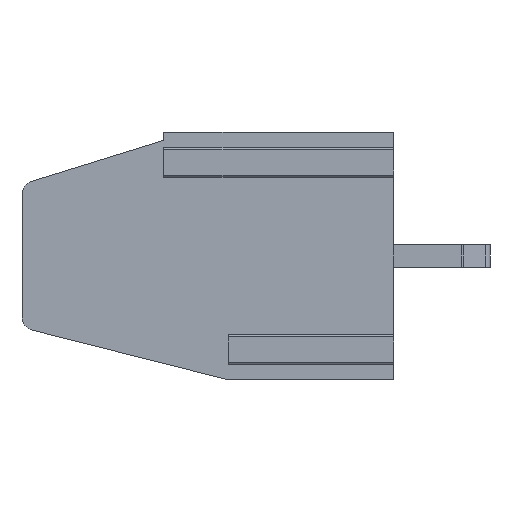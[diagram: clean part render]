
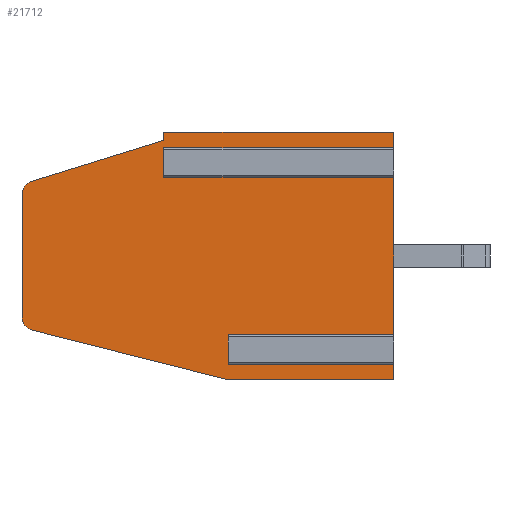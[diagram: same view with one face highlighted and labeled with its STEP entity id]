
A CAD part, left-side view. The second image highlights one B-rep face of the part: STEP entity #21712.
In plain terms, the highlighted planar face has unit normal (-1, 0, 0).
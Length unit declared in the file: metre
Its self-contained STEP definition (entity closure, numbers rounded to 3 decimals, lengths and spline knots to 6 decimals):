
#1=DIRECTION('',(0.,-0.969,-0.246));
#2=VECTOR('',#1,0.007348);
#3=CARTESIAN_POINT('',(-0.0032,0.013123,-0.007196));
#4=LINE('',#3,#2);
#5=CARTESIAN_POINT('',(-0.0032,0.013,-0.006711));
#6=DIRECTION('',(-1.,0.,0.));
#7=DIRECTION('',(0.,1.,0.));
#8=AXIS2_PLACEMENT_3D('',#5,#6,#7);
#10=CARTESIAN_POINT('',(-0.0032,0.013,-0.002268));
#11=DIRECTION('',(-1.,0.,0.));
#12=DIRECTION('',(0.,0.297,0.955));
#13=AXIS2_PLACEMENT_3D('',#10,#11,#12);
#15=DIRECTION('',(0.,0.955,-0.297));
#16=VECTOR('',#15,0.005025);
#17=CARTESIAN_POINT('',(-0.0032,0.00835,-0.0003));
#18=LINE('',#17,#16);
#19=DIRECTION('',(0.,1.,0.));
#20=VECTOR('',#19,0.006);
#21=CARTESIAN_POINT('',(-0.0032,0.,-0.007532));
#22=LINE('',#21,#20);
#32=DIRECTION('',(0.,0.,-1.));
#33=VECTOR('',#32,0.000735);
#34=CARTESIAN_POINT('',(-0.0032,0.006,-0.007532));
#35=LINE('',#34,#33);
#59=DIRECTION('',(0.,-1.,0.));
#60=VECTOR('',#59,0.006);
#61=CARTESIAN_POINT('',(-0.0032,0.006,-0.008268));
#62=LINE('',#61,#60);
#67=DIRECTION('',(0.,0.,-1.));
#68=VECTOR('',#67,0.000732);
#69=CARTESIAN_POINT('',(-0.0032,0.,-0.008268));
#70=LINE('',#69,#68);
#99=DIRECTION('',(0.,0.,-1.));
#100=VECTOR('',#99,0.006065);
#101=CARTESIAN_POINT('',(-0.0032,0.,-0.001468));
#102=LINE('',#101,#100);
#131=DIRECTION('',(0.,0.,-1.));
#132=VECTOR('',#131,0.000732);
#133=CARTESIAN_POINT('',(-0.0032,0.,0.));
#134=LINE('',#133,#132);
#3116=DIRECTION('',(0.,0.,1.));
#3117=VECTOR('',#3116,0.004443);
#3118=CARTESIAN_POINT('',(-0.0032,0.0135,-0.006711));
#3119=LINE('',#3118,#3117);
#4764=DIRECTION('',(0.,1.,0.));
#4765=VECTOR('',#4764,0.006);
#4766=CARTESIAN_POINT('',(-0.0032,0.,-0.009));
#4767=LINE('',#4766,#4765);
#5834=DIRECTION('',(0.,-1.,0.));
#5835=VECTOR('',#5834,0.00835);
#5836=CARTESIAN_POINT('',(-0.0032,0.00835,0.));
#5837=LINE('',#5836,#5835);
#11060=DIRECTION('',(0.,0.,1.));
#11061=VECTOR('',#11060,0.0003);
#11062=CARTESIAN_POINT('',(-0.0032,0.00835,-0.0003));
#11063=LINE('',#11062,#11061);
#18841=DIRECTION('',(0.,-1.,0.));
#18842=VECTOR('',#18841,0.00835);
#18843=CARTESIAN_POINT('',(-0.0032,0.00835,-0.001468));
#18844=LINE('',#18843,#18842);
#18854=DIRECTION('',(0.,0.,-1.));
#18855=VECTOR('',#18854,0.000735);
#18856=CARTESIAN_POINT('',(-0.0032,0.00835,-0.000732));
#18857=LINE('',#18856,#18855);
#18881=DIRECTION('',(0.,1.,0.));
#18882=VECTOR('',#18881,0.00835);
#18883=CARTESIAN_POINT('',(-0.0032,0.,-0.000732));
#18884=LINE('',#18883,#18882);
#18913=CARTESIAN_POINT('',(-0.0032,0.006,-0.007532));
#18914=CARTESIAN_POINT('',(-0.0032,0.006,-0.008268));
#18915=VERTEX_POINT('',#18913);
#18916=VERTEX_POINT('',#18914);
#18917=CARTESIAN_POINT('',(-0.0032,0.,-0.008268));
#18918=VERTEX_POINT('',#18917);
#18919=CARTESIAN_POINT('',(-0.0032,0.,-0.009));
#18920=VERTEX_POINT('',#18919);
#18921=CARTESIAN_POINT('',(-0.0032,0.006,-0.009));
#18922=VERTEX_POINT('',#18921);
#18923=CARTESIAN_POINT('',(-0.0032,0.013123,-0.007196));
#18924=VERTEX_POINT('',#18923);
#18925=CARTESIAN_POINT('',(-0.0032,0.0135,-0.006711));
#18926=VERTEX_POINT('',#18925);
#18927=CARTESIAN_POINT('',(-0.0032,0.0135,-0.002268));
#18928=VERTEX_POINT('',#18927);
#18929=CARTESIAN_POINT('',(-0.0032,0.013148,-0.001791));
#18930=VERTEX_POINT('',#18929);
#18931=CARTESIAN_POINT('',(-0.0032,0.00835,-0.0003));
#18932=VERTEX_POINT('',#18931);
#18933=CARTESIAN_POINT('',(-0.0032,0.00835,0.));
#18934=VERTEX_POINT('',#18933);
#18935=CARTESIAN_POINT('',(-0.0032,0.,0.));
#18936=VERTEX_POINT('',#18935);
#18937=CARTESIAN_POINT('',(-0.0032,0.,-0.000732));
#18938=VERTEX_POINT('',#18937);
#18939=CARTESIAN_POINT('',(-0.0032,0.00835,-0.000732));
#18940=VERTEX_POINT('',#18939);
#18941=CARTESIAN_POINT('',(-0.0032,0.00835,-0.001468));
#18942=VERTEX_POINT('',#18941);
#18943=CARTESIAN_POINT('',(-0.0032,0.,-0.001468));
#18944=VERTEX_POINT('',#18943);
#18945=CARTESIAN_POINT('',(-0.0032,0.,-0.007532));
#18946=VERTEX_POINT('',#18945);
#21671=CARTESIAN_POINT('',(-0.0032,0.0075,-0.0045));
#21672=DIRECTION('',(1.,0.,0.));
#21673=DIRECTION('',(0.,0.,-1.));
#21674=AXIS2_PLACEMENT_3D('',#21671,#21672,#21673);
#21675=PLANE('',#21674);
#21677=ORIENTED_EDGE('',*,*,#21676,.T.);
#21679=ORIENTED_EDGE('',*,*,#21678,.T.);
#21681=ORIENTED_EDGE('',*,*,#21680,.T.);
#21683=ORIENTED_EDGE('',*,*,#21682,.T.);
#21685=ORIENTED_EDGE('',*,*,#21684,.T.);
#21687=ORIENTED_EDGE('',*,*,#21686,.F.);
#21689=ORIENTED_EDGE('',*,*,#21688,.F.);
#21691=ORIENTED_EDGE('',*,*,#21690,.T.);
#21693=ORIENTED_EDGE('',*,*,#21692,.F.);
#21695=ORIENTED_EDGE('',*,*,#21694,.F.);
#21697=ORIENTED_EDGE('',*,*,#21696,.T.);
#21699=ORIENTED_EDGE('',*,*,#21698,.T.);
#21701=ORIENTED_EDGE('',*,*,#21700,.T.);
#21703=ORIENTED_EDGE('',*,*,#21702,.T.);
#21705=ORIENTED_EDGE('',*,*,#21704,.T.);
#21707=ORIENTED_EDGE('',*,*,#21706,.T.);
#21709=ORIENTED_EDGE('',*,*,#21708,.T.);
#21710=EDGE_LOOP('',(#21677,#21679,#21681,#21683,#21685,#21687,#21689,#21691,
#21693,#21695,#21697,#21699,#21701,#21703,#21705,#21707,#21709));
#21711=FACE_OUTER_BOUND('',#21710,.F.);
#21712=ADVANCED_FACE('',(#21711),#21675,.F.);
#9=CIRCLE('',#8,0.0005);
#14=CIRCLE('',#13,0.0005);
#21676=EDGE_CURVE('',#18946,#18915,#22,.T.);
#21678=EDGE_CURVE('',#18915,#18916,#35,.T.);
#21680=EDGE_CURVE('',#18916,#18918,#62,.T.);
#21682=EDGE_CURVE('',#18918,#18920,#70,.T.);
#21684=EDGE_CURVE('',#18920,#18922,#4767,.T.);
#21686=EDGE_CURVE('',#18924,#18922,#4,.T.);
#21688=EDGE_CURVE('',#18926,#18924,#9,.T.);
#21690=EDGE_CURVE('',#18926,#18928,#3119,.T.);
#21692=EDGE_CURVE('',#18930,#18928,#14,.T.);
#21694=EDGE_CURVE('',#18932,#18930,#18,.T.);
#21696=EDGE_CURVE('',#18932,#18934,#11063,.T.);
#21698=EDGE_CURVE('',#18934,#18936,#5837,.T.);
#21700=EDGE_CURVE('',#18936,#18938,#134,.T.);
#21702=EDGE_CURVE('',#18938,#18940,#18884,.T.);
#21704=EDGE_CURVE('',#18940,#18942,#18857,.T.);
#21706=EDGE_CURVE('',#18942,#18944,#18844,.T.);
#21708=EDGE_CURVE('',#18944,#18946,#102,.T.);
